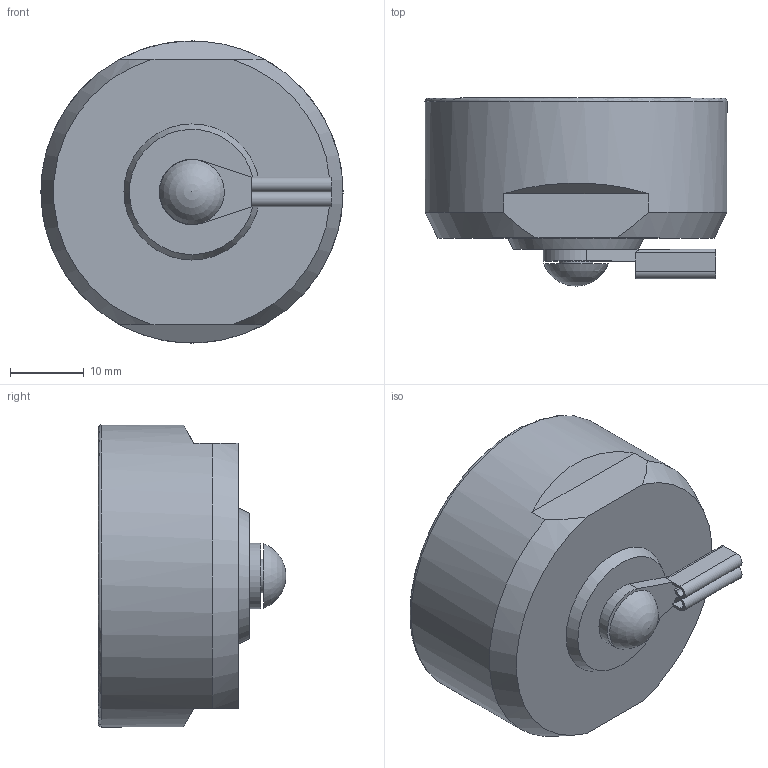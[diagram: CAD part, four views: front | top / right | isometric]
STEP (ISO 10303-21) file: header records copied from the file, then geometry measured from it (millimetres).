
FILE_DESCRIPTION (( 'STEP AP203' ), '1' );
FILE_NAME ('GKDF-CC.step', '2020-03-19T16:01:18', ( '' ), ( '' ), 'SwSTEP 2.0', 'SolidWorks 2017', '' );
FILE_SCHEMA (( 'CONFIG_CONTROL_DESIGN' ));
Length unit declared in the file: millimetre
Products named in the file (1): GKDF-CC
Bounding box: 40.99 x 25.5 x 40.99 mm (x, y, z)
Volume: 16278.8 mm3; surface area: 6572.3 mm2
Topology: 1 solids, 2 shells, 47 faces, 115 edges, 75 vertices
Faces by surface type: plane 26, cylinder 14, cone 5, torus 1, sphere 1
Full cylindrical faces by diameter (mm): 4.2 x1, 33.198 x1, 38.8 x1, 41 x1
Entity records: 1353 total; most frequent: CARTESIAN_POINT 236, DIRECTION 224, ORIENTED_EDGE 198, EDGE_CURVE 99, AXIS2_PLACEMENT_3D 85, VERTEX_POINT 69, EDGE_LOOP 60, VECTOR 54
